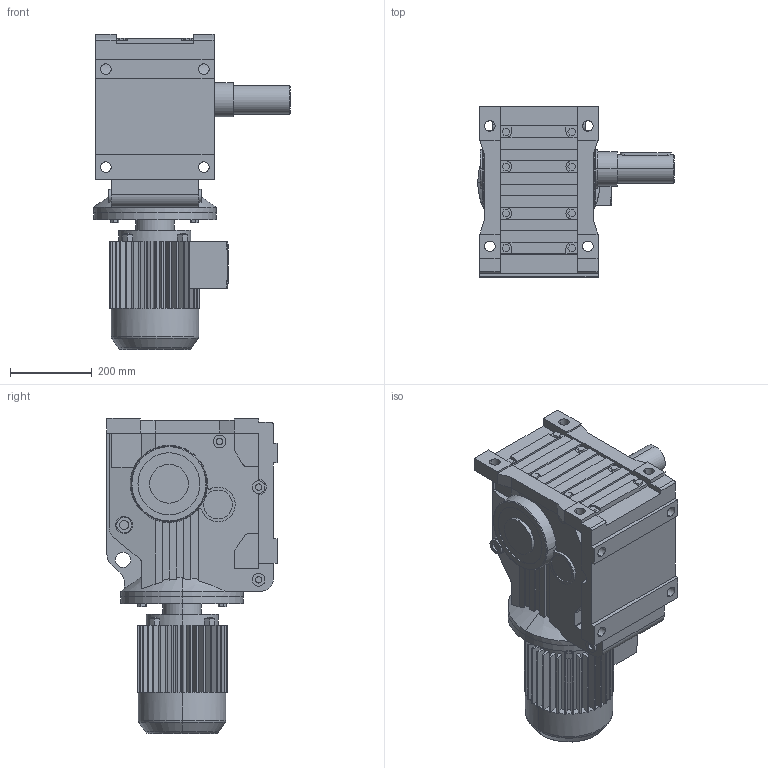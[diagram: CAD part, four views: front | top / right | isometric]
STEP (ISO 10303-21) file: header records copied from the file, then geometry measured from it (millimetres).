
FILE_DESCRIPTION(('Open CASCADE Model'),'2;1');
FILE_NAME('Open CASCADE Shape Model','2021-05-31T15:16:15',('Author'),( 'Open CASCADE'),'Open CASCADE STEP processor 6.3','Open CASCADE 6.3' ,'Unknown');
FILE_SCHEMA(('AUTOMOTIVE_DESIGN_CC2 { 1 2 10303 214 -1 1 5 4 }'));
Length unit declared in the file: millimetre
Products named in the file (4): 1_K97DV112M-A; K37‵157_97.step; 萇儂_300-DV112M-335-415-221-179.step; す瑩妗陑粣K_97.step
Assembly tree (3 placements, depth 2):
  1_K97DV112M-A
    K37‵157_97.step
    萇儂_300-DV112M-335-415-221-179.step
    す瑩妗陑粣K_97.step
Bounding box: 482 x 417 x 772 mm (x, y, z)
Volume: 49484933.2 mm3; surface area: 1829309.8 mm2
Topology: 3 solids, 3 shells, 836 faces, 2204 edges, 1431 vertices
Faces by surface type: plane 582, cylinder 231, cone 15, torus 8
Entity records: 57836 total; most frequent: CARTESIAN_POINT 15955, DIRECTION 7217, ORIENTED_EDGE 4404, PCURVE 4404, DEFINITIONAL_REPRESENTATION 4404, LINE 3932, VECTOR 3932, EDGE_CURVE 2202
